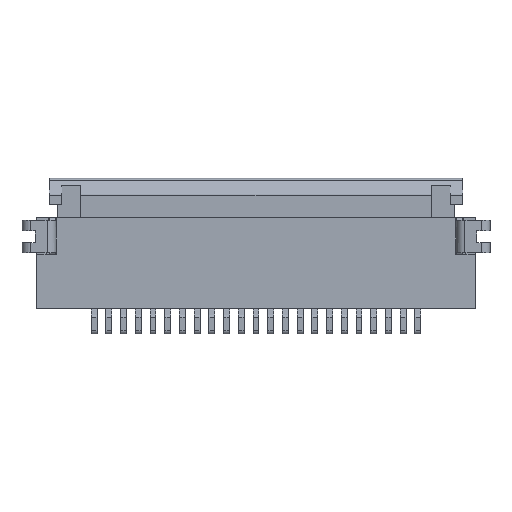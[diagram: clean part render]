
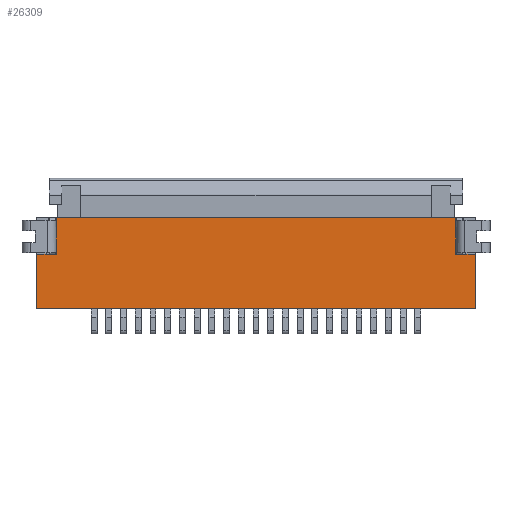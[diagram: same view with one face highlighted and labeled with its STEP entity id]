
A CAD part, top view. The second image highlights one B-rep face of the part: STEP entity #26309.
In plain terms, the highlighted planar face has unit normal (0, 0, 1).
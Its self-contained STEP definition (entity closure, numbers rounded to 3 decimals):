
#5=DIRECTION('',(0.,-1.,0.));
#6=VECTOR('',#5,1.85);
#7=CARTESIAN_POINT('',(-7.45,-1.25,1.55));
#8=LINE('',#7,#6);
#37=DIRECTION('',(-1.,0.,0.));
#38=VECTOR('',#37,0.67);
#39=CARTESIAN_POINT('',(-6.78,-1.25,1.55));
#40=LINE('',#39,#38);
#612=DIRECTION('',(1.,0.,0.));
#613=VECTOR('',#612,14.9);
#614=CARTESIAN_POINT('',(-7.45,-3.1,1.55));
#615=LINE('',#614,#613);
#1032=DIRECTION('',(0.,-1.,0.));
#1033=VECTOR('',#1032,1.25);
#1034=CARTESIAN_POINT('',(-6.78,0.,1.55));
#1035=LINE('',#1034,#1033);
#1036=DIRECTION('',(1.,0.,0.));
#1037=VECTOR('',#1036,13.56);
#1038=CARTESIAN_POINT('',(-6.78,0.,1.55));
#1039=LINE('',#1038,#1037);
#1040=DIRECTION('',(0.,-1.,0.));
#1041=VECTOR('',#1040,1.25);
#1042=CARTESIAN_POINT('',(6.78,0.,1.55));
#1043=LINE('',#1042,#1041);
#5276=DIRECTION('',(0.,-1.,0.));
#5277=VECTOR('',#5276,1.85);
#5278=CARTESIAN_POINT('',(7.45,-1.25,1.55));
#5279=LINE('',#5278,#5277);
#5284=DIRECTION('',(-1.,0.,0.));
#5285=VECTOR('',#5284,0.67);
#5286=CARTESIAN_POINT('',(7.45,-1.25,1.55));
#5287=LINE('',#5286,#5285);
#19273=CARTESIAN_POINT('',(-7.45,-3.1,1.55));
#19275=VERTEX_POINT('',#19273);
#19279=CARTESIAN_POINT('',(7.45,-3.1,1.55));
#19281=VERTEX_POINT('',#19279);
#19285=CARTESIAN_POINT('',(7.45,-1.25,1.55));
#19287=VERTEX_POINT('',#19285);
#19311=CARTESIAN_POINT('',(6.78,0.,1.55));
#19312=CARTESIAN_POINT('',(6.78,-1.25,1.55));
#19313=VERTEX_POINT('',#19311);
#19314=VERTEX_POINT('',#19312);
#19473=CARTESIAN_POINT('',(-6.78,-1.25,1.55));
#19474=VERTEX_POINT('',#19473);
#19529=CARTESIAN_POINT('',(-7.45,-1.25,1.55));
#19531=VERTEX_POINT('',#19529);
#19545=CARTESIAN_POINT('',(-6.78,0.,1.55));
#19546=VERTEX_POINT('',#19545);
#26289=CARTESIAN_POINT('',(-7.45,0.,1.55));
#26290=DIRECTION('',(0.,0.,1.));
#26291=DIRECTION('',(0.,-1.,0.));
#26292=AXIS2_PLACEMENT_3D('',#26289,#26290,#26291);
#26293=PLANE('',#26292);
#26294=ORIENTED_EDGE('',*,*,#25233,.F.);
#26296=ORIENTED_EDGE('',*,*,#26295,.F.);
#26298=ORIENTED_EDGE('',*,*,#26297,.T.);
#26300=ORIENTED_EDGE('',*,*,#26299,.T.);
#26302=ORIENTED_EDGE('',*,*,#26301,.F.);
#26304=ORIENTED_EDGE('',*,*,#26303,.T.);
#26305=ORIENTED_EDGE('',*,*,#26012,.F.);
#26306=ORIENTED_EDGE('',*,*,#25205,.F.);
#26307=EDGE_LOOP('',(#26294,#26296,#26298,#26300,#26302,#26304,#26305,#26306));
#26308=FACE_OUTER_BOUND('',#26307,.F.);
#26309=ADVANCED_FACE('',(#26308),#26293,.T.);
#25205=EDGE_CURVE('',#19531,#19275,#8,.T.);
#25233=EDGE_CURVE('',#19474,#19531,#40,.T.);
#26012=EDGE_CURVE('',#19275,#19281,#615,.T.);
#26295=EDGE_CURVE('',#19546,#19474,#1035,.T.);
#26297=EDGE_CURVE('',#19546,#19313,#1039,.T.);
#26299=EDGE_CURVE('',#19313,#19314,#1043,.T.);
#26301=EDGE_CURVE('',#19287,#19314,#5287,.T.);
#26303=EDGE_CURVE('',#19287,#19281,#5279,.T.);
